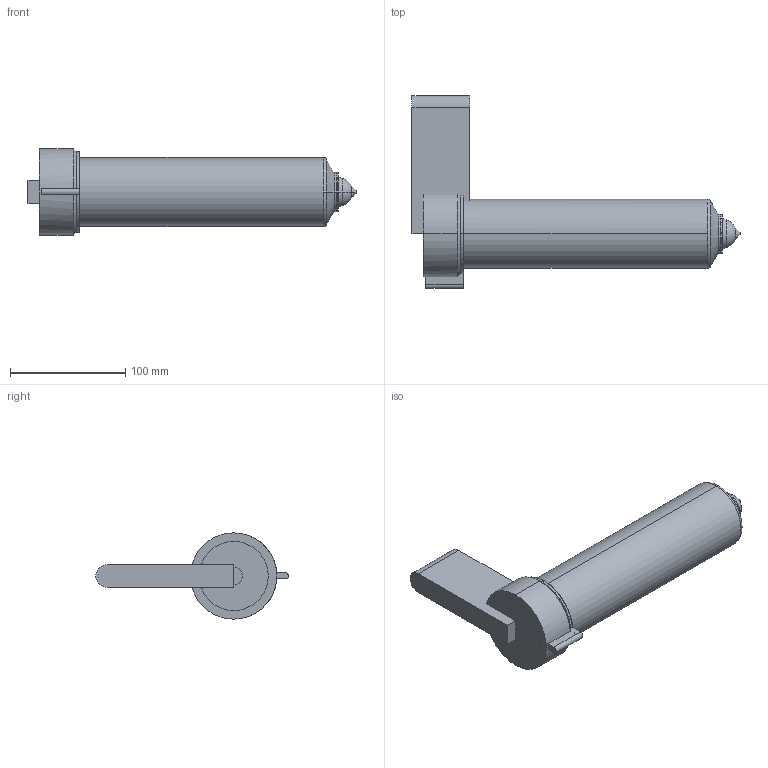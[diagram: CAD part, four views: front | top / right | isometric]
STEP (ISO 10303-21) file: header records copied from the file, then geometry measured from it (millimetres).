
FILE_DESCRIPTION (( 'STEP AP214' ), '1' );
FILE_NAME ('PRS45-273CC-2.0.STEP', '2021-05-31T10:22:34', ( '' ), ( '' ), 'SwSTEP 2.0', 'SolidWorks 2018', '' );
FILE_SCHEMA (( 'AUTOMOTIVE_DESIGN' ));
Length unit declared in the file: millimetre
Products named in the file (5): join^PRS-NOZZLE-15; CC(45)-15; BODY SPRING(45-SPRING)-15; PRS-NOZZLE(PRS45)-15; PRS45-273CC-2.0
Assembly tree (4 placements, depth 2):
  PRS45-273CC-2.0
    PRS-NOZZLE(PRS45)-15
    BODY SPRING(45-SPRING)-15
    CC(45)-15
    join^PRS-NOZZLE-15
Bounding box: 285 x 167.5 x 75 mm (x, y, z)
Volume: 1458080.5 mm3; surface area: 147446.8 mm2
Topology: 4 solids, 4 shells, 215 faces, 513 edges, 316 vertices
Faces by surface type: cylinder 87, cone 57, plane 39, torus 28, sphere 4
Entity records: 6641 total; most frequent: CARTESIAN_POINT 1286, DIRECTION 1209, ORIENTED_EDGE 1026, AXIS2_PLACEMENT_3D 517, EDGE_CURVE 513, VERTEX_POINT 316, CIRCLE 295, EDGE_LOOP 233
